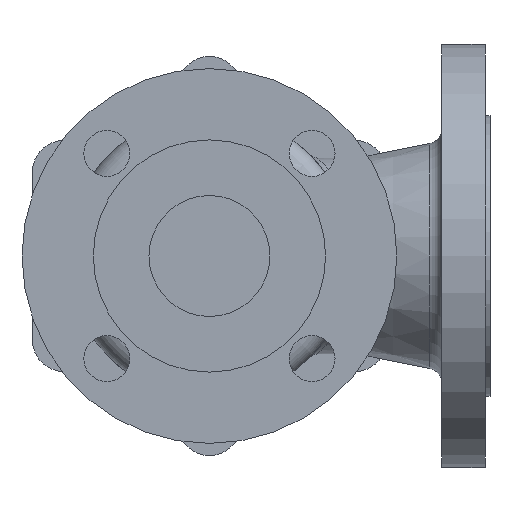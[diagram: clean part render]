
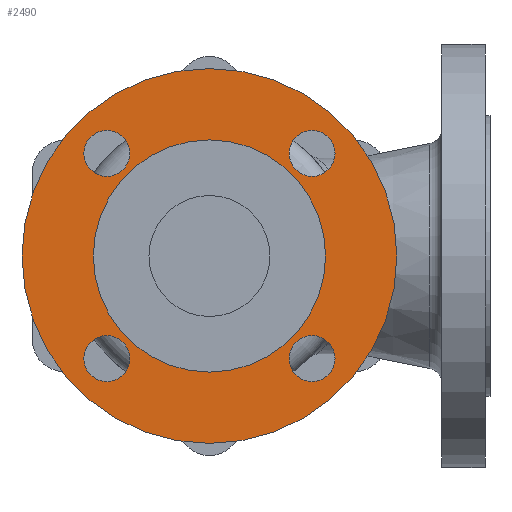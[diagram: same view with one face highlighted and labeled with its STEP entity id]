
A CAD part, front view. The second image highlights one B-rep face of the part: STEP entity #2490.
In plain terms, the highlighted planar face has unit normal (0, -1, 0).
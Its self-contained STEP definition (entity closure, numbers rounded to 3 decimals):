
#96 = VERTEX_POINT ( 'NONE', #2246 ) ;
#110 = EDGE_CURVE ( 'NONE', #96, #826, #330, .T. ) ;
#111 = DIRECTION ( 'NONE',  ( 0., -1., 0. ) ) ;
#125 = EDGE_CURVE ( 'NONE', #3712, #267, #1305, .T. ) ;
#258 = EDGE_LOOP ( 'NONE', ( #801, #2999 ) ) ;
#267 = VERTEX_POINT ( 'NONE', #2437 ) ;
#316 = DIRECTION ( 'NONE',  ( -1., 0., 0. ) ) ;
#330 = CIRCLE ( 'NONE', #4660, 9.5 ) ;
#346 = AXIS2_PLACEMENT_3D ( 'NONE', #3717, #2238, #4213 ) ;
#437 = DIRECTION ( 'NONE',  ( 0., 0., 1. ) ) ;
#522 = EDGE_LOOP ( 'NONE', ( #3245, #4110 ) ) ;
#527 = DIRECTION ( 'NONE',  ( 0., 1., 0. ) ) ;
#589 = VERTEX_POINT ( 'NONE', #1749 ) ;
#674 = ORIENTED_EDGE ( 'NONE', *, *, #1181, .T. ) ;
#693 = CIRCLE ( 'NONE', #5317, 9.5 ) ;
#701 = CIRCLE ( 'NONE', #4255, 9.5 ) ;
#709 = DIRECTION ( 'NONE',  ( 0., 1., 0. ) ) ;
#801 = ORIENTED_EDGE ( 'NONE', *, *, #4464, .F. ) ;
#826 = VERTEX_POINT ( 'NONE', #3344 ) ;
#833 = CARTESIAN_POINT ( 'NONE',  ( 42.426, -105., -42.426 ) ) ;
#866 = DIRECTION ( 'NONE',  ( 0., 0., 1. ) ) ;
#873 = FACE_BOUND ( 'NONE', #2572, .T. ) ;
#929 = ORIENTED_EDGE ( 'NONE', *, *, #1396, .F. ) ;
#961 = DIRECTION ( 'NONE',  ( 0., -1., 0. ) ) ;
#986 = AXIS2_PLACEMENT_3D ( 'NONE', #1299, #5955, #3184 ) ;
#1014 = ORIENTED_EDGE ( 'NONE', *, *, #125, .T. ) ;
#1033 = EDGE_CURVE ( 'NONE', #589, #3267, #5542, .T. ) ;
#1050 = CARTESIAN_POINT ( 'NONE',  ( -42.426, -105., -42.426 ) ) ;
#1057 = VERTEX_POINT ( 'NONE', #1104 ) ;
#1104 = CARTESIAN_POINT ( 'NONE',  ( -42.426, -105., 51.926 ) ) ;
#1181 = EDGE_CURVE ( 'NONE', #267, #3712, #4673, .T. ) ;
#1218 = DIRECTION ( 'NONE',  ( 0., -1., 0. ) ) ;
#1237 = FACE_BOUND ( 'NONE', #522, .T. ) ;
#1247 = CARTESIAN_POINT ( 'NONE',  ( -42.426, -105., 42.426 ) ) ;
#1299 = CARTESIAN_POINT ( 'NONE',  ( 0., -105., 0. ) ) ;
#1305 = CIRCLE ( 'NONE', #1517, 48. ) ;
#1327 = DIRECTION ( 'NONE',  ( 0., 0., -1. ) ) ;
#1338 = FACE_BOUND ( 'NONE', #258, .T. ) ;
#1396 = EDGE_CURVE ( 'NONE', #5921, #5571, #3400, .T. ) ;
#1517 = AXIS2_PLACEMENT_3D ( 'NONE', #4161, #5502, #437 ) ;
#1526 = AXIS2_PLACEMENT_3D ( 'NONE', #2094, #709, #3518 ) ;
#1545 = CARTESIAN_POINT ( 'NONE',  ( 0., -105., 0. ) ) ;
#1615 = EDGE_CURVE ( 'NONE', #4633, #5816, #2804, .T. ) ;
#1749 = CARTESIAN_POINT ( 'NONE',  ( 42.426, -105., -32.926 ) ) ;
#1760 = DIRECTION ( 'NONE',  ( 0., -1., 0. ) ) ;
#1773 = ORIENTED_EDGE ( 'NONE', *, *, #5047, .F. ) ;
#1794 = CARTESIAN_POINT ( 'NONE',  ( -42.426, -105., 32.926 ) ) ;
#1882 = DIRECTION ( 'NONE',  ( 0., -1., 0. ) ) ;
#1934 = CARTESIAN_POINT ( 'NONE',  ( 0., -105., -48. ) ) ;
#1997 = ORIENTED_EDGE ( 'NONE', *, *, #3429, .F. ) ;
#2016 = AXIS2_PLACEMENT_3D ( 'NONE', #1545, #527, #3816 ) ;
#2094 = CARTESIAN_POINT ( 'NONE',  ( 0., -105., 0. ) ) ;
#2197 = CARTESIAN_POINT ( 'NONE',  ( -48., -105., 0. ) ) ;
#2220 = CARTESIAN_POINT ( 'NONE',  ( -42.426, -105., 42.426 ) ) ;
#2238 = DIRECTION ( 'NONE',  ( 0., -1., 0. ) ) ;
#2246 = CARTESIAN_POINT ( 'NONE',  ( -42.426, -105., -32.926 ) ) ;
#2322 = AXIS2_PLACEMENT_3D ( 'NONE', #2197, #961, #4817 ) ;
#2328 = FACE_BOUND ( 'NONE', #3185, .T. ) ;
#2379 = DIRECTION ( 'NONE',  ( 0., -1., 0. ) ) ;
#2380 = ORIENTED_EDGE ( 'NONE', *, *, #110, .F. ) ;
#2384 = CIRCLE ( 'NONE', #5817, 9.5 ) ;
#2424 = DIRECTION ( 'NONE',  ( 1., 0., 0. ) ) ;
#2437 = CARTESIAN_POINT ( 'NONE',  ( 0., -105., 48. ) ) ;
#2490 = ADVANCED_FACE ( 'NONE', ( #1237, #1338, #5128, #873, #2328, #2754 ), #3121, .T. ) ;
#2572 = EDGE_LOOP ( 'NONE', ( #4868, #5908 ) ) ;
#2612 = DIRECTION ( 'NONE',  ( 0., 0., -1. ) ) ;
#2706 = CARTESIAN_POINT ( 'NONE',  ( 42.426, -105., 51.926 ) ) ;
#2754 = FACE_OUTER_BOUND ( 'NONE', #5583, .T. ) ;
#2804 = CIRCLE ( 'NONE', #346, 9.5 ) ;
#2999 = ORIENTED_EDGE ( 'NONE', *, *, #1033, .F. ) ;
#3121 = PLANE ( 'NONE',  #2322 ) ;
#3184 = DIRECTION ( 'NONE',  ( 0., 0., 1. ) ) ;
#3185 = EDGE_LOOP ( 'NONE', ( #674, #1014 ) ) ;
#3215 = CARTESIAN_POINT ( 'NONE',  ( 42.426, -105., -42.426 ) ) ;
#3245 = ORIENTED_EDGE ( 'NONE', *, *, #1615, .F. ) ;
#3265 = CIRCLE ( 'NONE', #986, 77.5 ) ;
#3267 = VERTEX_POINT ( 'NONE', #3738 ) ;
#3344 = CARTESIAN_POINT ( 'NONE',  ( -42.426, -105., -51.926 ) ) ;
#3364 = CARTESIAN_POINT ( 'NONE',  ( 42.426, -105., 32.926 ) ) ;
#3400 = CIRCLE ( 'NONE', #2016, 77.5 ) ;
#3429 = EDGE_CURVE ( 'NONE', #826, #96, #2384, .T. ) ;
#3518 = DIRECTION ( 'NONE',  ( 0., 0., 1. ) ) ;
#3554 = CIRCLE ( 'NONE', #5620, 9.5 ) ;
#3622 = AXIS2_PLACEMENT_3D ( 'NONE', #1247, #1218, #2612 ) ;
#3712 = VERTEX_POINT ( 'NONE', #1934 ) ;
#3717 = CARTESIAN_POINT ( 'NONE',  ( 42.426, -105., 42.426 ) ) ;
#3720 = CARTESIAN_POINT ( 'NONE',  ( 0., -105., 77.5 ) ) ;
#3738 = CARTESIAN_POINT ( 'NONE',  ( 42.426, -105., -51.926 ) ) ;
#3816 = DIRECTION ( 'NONE',  ( 0., 0., 1. ) ) ;
#4110 = ORIENTED_EDGE ( 'NONE', *, *, #4256, .F. ) ;
#4161 = CARTESIAN_POINT ( 'NONE',  ( 0., -105., 0. ) ) ;
#4213 = DIRECTION ( 'NONE',  ( -1., 0., 0. ) ) ;
#4226 = CARTESIAN_POINT ( 'NONE',  ( 0., -105., -77.5 ) ) ;
#4255 = AXIS2_PLACEMENT_3D ( 'NONE', #5506, #5018, #316 ) ;
#4256 = EDGE_CURVE ( 'NONE', #5816, #4633, #701, .T. ) ;
#4261 = DIRECTION ( 'NONE',  ( 0., 0., 1. ) ) ;
#4273 = AXIS2_PLACEMENT_3D ( 'NONE', #3215, #5089, #866 ) ;
#4406 = VERTEX_POINT ( 'NONE', #1794 ) ;
#4464 = EDGE_CURVE ( 'NONE', #3267, #589, #3554, .T. ) ;
#4633 = VERTEX_POINT ( 'NONE', #3364 ) ;
#4654 = DIRECTION ( 'NONE',  ( 1., 0., 0. ) ) ;
#4660 = AXIS2_PLACEMENT_3D ( 'NONE', #5084, #1882, #4654 ) ;
#4673 = CIRCLE ( 'NONE', #1526, 48. ) ;
#4817 = DIRECTION ( 'NONE',  ( 0., 0., -1. ) ) ;
#4868 = ORIENTED_EDGE ( 'NONE', *, *, #5788, .F. ) ;
#5018 = DIRECTION ( 'NONE',  ( 0., -1., 0. ) ) ;
#5047 = EDGE_CURVE ( 'NONE', #5571, #5921, #3265, .T. ) ;
#5084 = CARTESIAN_POINT ( 'NONE',  ( -42.426, -105., -42.426 ) ) ;
#5089 = DIRECTION ( 'NONE',  ( 0., -1., 0. ) ) ;
#5128 = FACE_BOUND ( 'NONE', #5755, .T. ) ;
#5317 = AXIS2_PLACEMENT_3D ( 'NONE', #2220, #1760, #1327 ) ;
#5387 = CIRCLE ( 'NONE', #3622, 9.5 ) ;
#5397 = EDGE_CURVE ( 'NONE', #1057, #4406, #693, .T. ) ;
#5502 = DIRECTION ( 'NONE',  ( 0., 1., 0. ) ) ;
#5506 = CARTESIAN_POINT ( 'NONE',  ( 42.426, -105., 42.426 ) ) ;
#5542 = CIRCLE ( 'NONE', #4273, 9.5 ) ;
#5571 = VERTEX_POINT ( 'NONE', #4226 ) ;
#5583 = EDGE_LOOP ( 'NONE', ( #929, #1773 ) ) ;
#5620 = AXIS2_PLACEMENT_3D ( 'NONE', #833, #2379, #4261 ) ;
#5755 = EDGE_LOOP ( 'NONE', ( #1997, #2380 ) ) ;
#5788 = EDGE_CURVE ( 'NONE', #4406, #1057, #5387, .T. ) ;
#5816 = VERTEX_POINT ( 'NONE', #2706 ) ;
#5817 = AXIS2_PLACEMENT_3D ( 'NONE', #1050, #111, #2424 ) ;
#5908 = ORIENTED_EDGE ( 'NONE', *, *, #5397, .F. ) ;
#5921 = VERTEX_POINT ( 'NONE', #3720 ) ;
#5955 = DIRECTION ( 'NONE',  ( 0., 1., 0. ) ) ;
